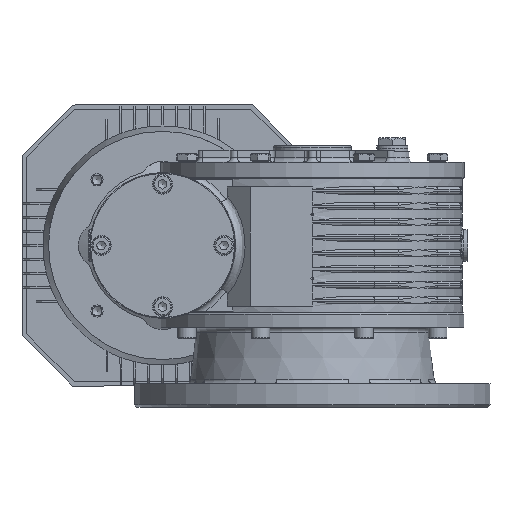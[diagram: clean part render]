
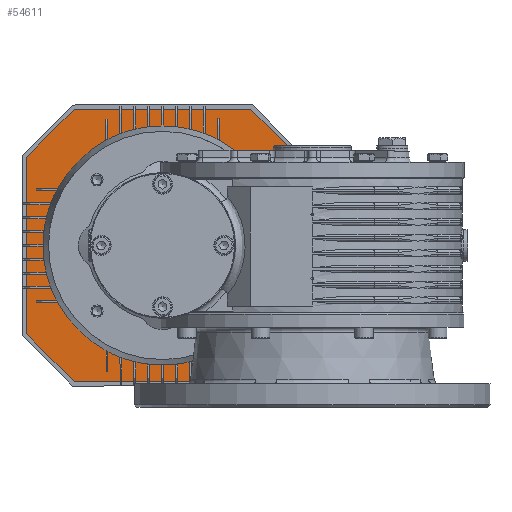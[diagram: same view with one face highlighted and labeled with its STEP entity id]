
A CAD part, left-side view. The second image highlights one B-rep face of the part: STEP entity #54611.
In plain terms, the highlighted planar face has unit normal (-1, 0, 0).
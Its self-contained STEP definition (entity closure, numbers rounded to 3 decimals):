
#53123=CARTESIAN_POINT('',(306.0,0.,57.2));
#53124=VERTEX_POINT('',#53123);
#53125=CARTESIAN_POINT('',(306.0,0.,0.));
#53126=DIRECTION('',(-1.0,0.0,0.0));
#53127=DIRECTION('',(0.0,0.0,-1.0));
#53128=AXIS2_PLACEMENT_3D('',#53125,#53126,#53127);
#53129=CIRCLE('',#53128,57.2);
#53130=EDGE_CURVE('',#53124,#53124,#53129,.T.);
#53151=CARTESIAN_POINT('',(306.0,-61.902,95.5));
#53152=VERTEX_POINT('',#53151);
#53153=CARTESIAN_POINT('',(306.0,61.902,95.5));
#53154=VERTEX_POINT('',#53153);
#53155=CARTESIAN_POINT('',(306.0,-61.902,95.5));
#53156=DIRECTION('',(0.0,1.0,0.0));
#53157=VECTOR('',#53156,123.804);
#53158=LINE('',#53155,#53157);
#53159=EDGE_CURVE('',#53152,#53154,#53158,.T.);
#53191=CARTESIAN_POINT('',(306.0,95.5,61.902));
#53192=VERTEX_POINT('',#53191);
#53193=CARTESIAN_POINT('',(306.0,61.902,95.5));
#53194=DIRECTION('',(0.0,0.707,-0.707));
#53195=VECTOR('',#53194,47.515);
#53196=LINE('',#53193,#53195);
#53197=EDGE_CURVE('',#53154,#53192,#53196,.T.);
#53222=CARTESIAN_POINT('',(306.0,95.5,-61.902));
#53223=VERTEX_POINT('',#53222);
#53224=CARTESIAN_POINT('',(306.0,95.5,61.902));
#53225=DIRECTION('',(0.0,0.0,-1.0));
#53226=VECTOR('',#53225,123.804);
#53227=LINE('',#53224,#53226);
#53228=EDGE_CURVE('',#53192,#53223,#53227,.T.);
#53253=CARTESIAN_POINT('',(306.0,61.902,-95.5));
#53254=VERTEX_POINT('',#53253);
#53255=CARTESIAN_POINT('',(306.0,95.5,-61.902));
#53256=DIRECTION('',(0.0,-0.707,-0.707));
#53257=VECTOR('',#53256,47.515);
#53258=LINE('',#53255,#53257);
#53259=EDGE_CURVE('',#53223,#53254,#53258,.T.);
#53284=CARTESIAN_POINT('',(306.0,-61.902,-95.5));
#53285=VERTEX_POINT('',#53284);
#53286=CARTESIAN_POINT('',(306.0,61.902,-95.5));
#53287=DIRECTION('',(0.0,-1.0,0.0));
#53288=VECTOR('',#53287,123.804);
#53289=LINE('',#53286,#53288);
#53290=EDGE_CURVE('',#53254,#53285,#53289,.T.);
#53315=CARTESIAN_POINT('',(306.0,-95.5,-61.902));
#53316=VERTEX_POINT('',#53315);
#53317=CARTESIAN_POINT('',(306.0,-61.902,-95.5));
#53318=DIRECTION('',(0.0,-0.707,0.707));
#53319=VECTOR('',#53318,47.515);
#53320=LINE('',#53317,#53319);
#53321=EDGE_CURVE('',#53285,#53316,#53320,.T.);
#53346=CARTESIAN_POINT('',(306.0,-95.5,61.902));
#53347=VERTEX_POINT('',#53346);
#53348=CARTESIAN_POINT('',(306.0,-95.5,-61.902));
#53349=DIRECTION('',(0.0,0.0,1.0));
#53350=VECTOR('',#53349,123.804);
#53351=LINE('',#53348,#53350);
#53352=EDGE_CURVE('',#53316,#53347,#53351,.T.);
#53377=CARTESIAN_POINT('',(306.0,-95.5,61.902));
#53378=DIRECTION('',(0.0,0.707,0.707));
#53379=VECTOR('',#53378,47.515);
#53380=LINE('',#53377,#53379);
#53381=EDGE_CURVE('',#53347,#53152,#53380,.T.);
#54593=CARTESIAN_POINT('',(306.0,0.,0.));
#54594=DIRECTION('',(1.0,0.0,0.0));
#54595=DIRECTION('',(0.0,0.0,-1.0));
#54596=AXIS2_PLACEMENT_3D('',#54593,#54594,#54595);
#54597=PLANE('',#54596);
#54598=ORIENTED_EDGE('',*,*,#53159,.T.);
#54599=ORIENTED_EDGE('',*,*,#53197,.T.);
#54600=ORIENTED_EDGE('',*,*,#53228,.T.);
#54601=ORIENTED_EDGE('',*,*,#53259,.T.);
#54602=ORIENTED_EDGE('',*,*,#53290,.T.);
#54603=ORIENTED_EDGE('',*,*,#53321,.T.);
#54604=ORIENTED_EDGE('',*,*,#53352,.T.);
#54605=ORIENTED_EDGE('',*,*,#53381,.T.);
#54606=EDGE_LOOP('',(#54598,#54599,#54600,#54601,#54602,#54603,#54604,#54605));
#54607=FACE_OUTER_BOUND('',#54606,.T.);
#54608=ORIENTED_EDGE('',*,*,#53130,.F.);
#54609=EDGE_LOOP('',(#54608));
#54610=FACE_BOUND('',#54609,.T.);
#54611=ADVANCED_FACE('',(#54607,#54610),#54597,.F.);
